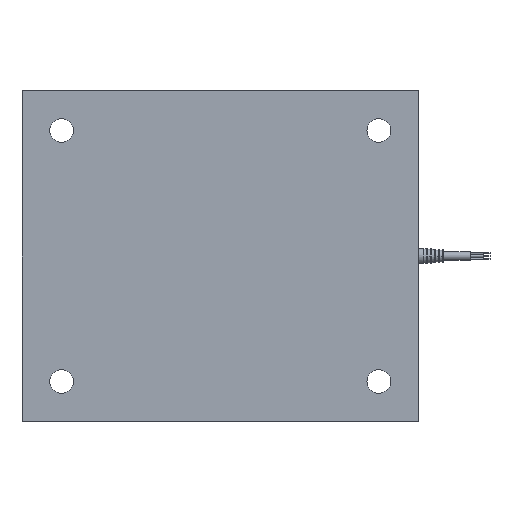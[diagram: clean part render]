
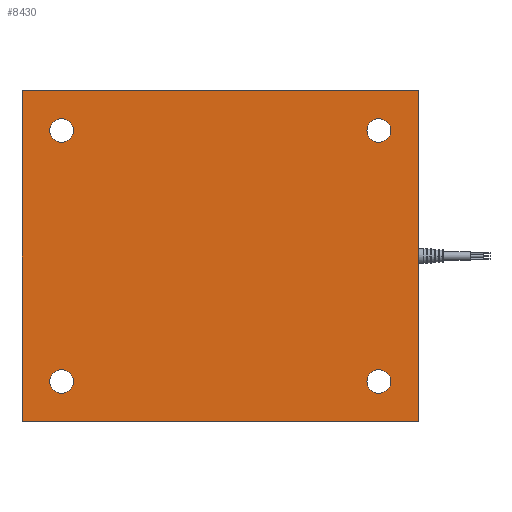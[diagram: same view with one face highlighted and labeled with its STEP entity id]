
A CAD part, front view. The second image highlights one B-rep face of the part: STEP entity #8430.
In plain terms, the highlighted planar face has unit normal (0, -1, 0).
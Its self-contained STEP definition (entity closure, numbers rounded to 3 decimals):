
#116 = VECTOR ( 'NONE', #326, 1000. ) ;
#137 = CIRCLE ( 'NONE', #1979, 9. ) ;
#177 = AXIS2_PLACEMENT_3D ( 'NONE', #9393, #5523, #832 ) ;
#229 = ORIENTED_EDGE ( 'NONE', *, *, #6847, .F. ) ;
#326 = DIRECTION ( 'NONE',  ( 0., 0., 1. ) ) ;
#353 = VERTEX_POINT ( 'NONE', #1999 ) ;
#703 = ORIENTED_EDGE ( 'NONE', *, *, #4865, .F. ) ;
#705 = DIRECTION ( 'NONE',  ( 0., 0., -1. ) ) ;
#832 = DIRECTION ( 'NONE',  ( 0., 0., 1. ) ) ;
#1026 = DIRECTION ( 'NONE',  ( 0., 0., 1. ) ) ;
#1034 = VERTEX_POINT ( 'NONE', #7795 ) ;
#1242 = FACE_BOUND ( 'NONE', #9019, .T. ) ;
#1250 = ORIENTED_EDGE ( 'NONE', *, *, #11129, .T. ) ;
#1761 = CARTESIAN_POINT ( 'NONE',  ( -120., 0., 104. ) ) ;
#1809 = CIRCLE ( 'NONE', #7284, 9. ) ;
#1979 = AXIS2_PLACEMENT_3D ( 'NONE', #8623, #12487, #7485 ) ;
#1986 = VERTEX_POINT ( 'NONE', #7447 ) ;
#1999 = CARTESIAN_POINT ( 'NONE',  ( 150., 0., 125. ) ) ;
#2360 = ORIENTED_EDGE ( 'NONE', *, *, #9410, .T. ) ;
#2840 = CIRCLE ( 'NONE', #4449, 9. ) ;
#2883 = CARTESIAN_POINT ( 'NONE',  ( 120., 0., -104. ) ) ;
#3141 = ORIENTED_EDGE ( 'NONE', *, *, #4127, .F. ) ;
#3194 = LINE ( 'NONE', #4081, #4846 ) ;
#3230 = CARTESIAN_POINT ( 'NONE',  ( -120., 0., 86. ) ) ;
#3317 = ORIENTED_EDGE ( 'NONE', *, *, #9626, .T. ) ;
#3402 = FACE_BOUND ( 'NONE', #3600, .T. ) ;
#3481 = EDGE_LOOP ( 'NONE', ( #1250, #8218 ) ) ;
#3524 = ORIENTED_EDGE ( 'NONE', *, *, #3999, .T. ) ;
#3552 = EDGE_CURVE ( 'NONE', #1034, #6792, #1809, .T. ) ;
#3600 = EDGE_LOOP ( 'NONE', ( #9226, #3524 ) ) ;
#3602 = ORIENTED_EDGE ( 'NONE', *, *, #4307, .T. ) ;
#3770 = CARTESIAN_POINT ( 'NONE',  ( -120., 0., 95. ) ) ;
#3812 = CARTESIAN_POINT ( 'NONE',  ( -150., 0., -125. ) ) ;
#3908 = CARTESIAN_POINT ( 'NONE',  ( 120., 0., -95. ) ) ;
#3999 = EDGE_CURVE ( 'NONE', #6792, #1034, #8051, .T. ) ;
#4015 = CARTESIAN_POINT ( 'NONE',  ( -120., 0., -95. ) ) ;
#4081 = CARTESIAN_POINT ( 'NONE',  ( -150., 0., -125. ) ) ;
#4127 = EDGE_CURVE ( 'NONE', #353, #11251, #9079, .T. ) ;
#4307 = EDGE_CURVE ( 'NONE', #1986, #9152, #137, .T. ) ;
#4357 = EDGE_LOOP ( 'NONE', ( #3317, #2360 ) ) ;
#4442 = CARTESIAN_POINT ( 'NONE',  ( 150., 0., 125. ) ) ;
#4449 = AXIS2_PLACEMENT_3D ( 'NONE', #4585, #6738, #5782 ) ;
#4585 = CARTESIAN_POINT ( 'NONE',  ( 120., 0., -95. ) ) ;
#4647 = CIRCLE ( 'NONE', #9313, 9. ) ;
#4846 = VECTOR ( 'NONE', #7109, 1000. ) ;
#4865 = EDGE_CURVE ( 'NONE', #9776, #8119, #9792, .T. ) ;
#4890 = CARTESIAN_POINT ( 'NONE',  ( 120., 0., 95. ) ) ;
#4983 = DIRECTION ( 'NONE',  ( 0., 0., 1. ) ) ;
#5032 = CARTESIAN_POINT ( 'NONE',  ( 150., 0., -125. ) ) ;
#5065 = DIRECTION ( 'NONE',  ( 1., 0., 0. ) ) ;
#5321 = CARTESIAN_POINT ( 'NONE',  ( 120., 0., 104. ) ) ;
#5396 = EDGE_LOOP ( 'NONE', ( #703, #229, #3141, #9287 ) ) ;
#5444 = ORIENTED_EDGE ( 'NONE', *, *, #7240, .T. ) ;
#5520 = VERTEX_POINT ( 'NONE', #3230 ) ;
#5523 = DIRECTION ( 'NONE',  ( 0., 1., 0. ) ) ;
#5527 = FACE_OUTER_BOUND ( 'NONE', #5396, .T. ) ;
#5621 = VECTOR ( 'NONE', #12184, 1000. ) ;
#5656 = CARTESIAN_POINT ( 'NONE',  ( 120., 0., -86. ) ) ;
#5664 = CIRCLE ( 'NONE', #7283, 9. ) ;
#5735 = DIRECTION ( 'NONE',  ( 0., 1., 0. ) ) ;
#5782 = DIRECTION ( 'NONE',  ( 0., 0., 1. ) ) ;
#6020 = DIRECTION ( 'NONE',  ( 0., 0., 1. ) ) ;
#6260 = LINE ( 'NONE', #9000, #8521 ) ;
#6499 = AXIS2_PLACEMENT_3D ( 'NONE', #9396, #10943, #705 ) ;
#6614 = CARTESIAN_POINT ( 'NONE',  ( -120., 0., -104. ) ) ;
#6673 = CIRCLE ( 'NONE', #177, 9. ) ;
#6738 = DIRECTION ( 'NONE',  ( 0., 1., 0. ) ) ;
#6760 = DIRECTION ( 'NONE',  ( 0., 1., 0. ) ) ;
#6792 = VERTEX_POINT ( 'NONE', #6614 ) ;
#6847 = EDGE_CURVE ( 'NONE', #11251, #9776, #3194, .T. ) ;
#7051 = DIRECTION ( 'NONE',  ( 0., 1., 0. ) ) ;
#7052 = CARTESIAN_POINT ( 'NONE',  ( -150., 0., 125. ) ) ;
#7061 = PLANE ( 'NONE',  #6499 ) ;
#7109 = DIRECTION ( 'NONE',  ( -1., 0., 0. ) ) ;
#7127 = FACE_BOUND ( 'NONE', #4357, .T. ) ;
#7196 = EDGE_CURVE ( 'NONE', #5520, #9350, #6673, .T. ) ;
#7240 = EDGE_CURVE ( 'NONE', #9152, #1986, #4647, .T. ) ;
#7283 = AXIS2_PLACEMENT_3D ( 'NONE', #3908, #6760, #4983 ) ;
#7284 = AXIS2_PLACEMENT_3D ( 'NONE', #4015, #7051, #8972 ) ;
#7447 = CARTESIAN_POINT ( 'NONE',  ( 120., 0., 86. ) ) ;
#7462 = CARTESIAN_POINT ( 'NONE',  ( -150., 0., 125. ) ) ;
#7485 = DIRECTION ( 'NONE',  ( 0., 0., 1. ) ) ;
#7795 = CARTESIAN_POINT ( 'NONE',  ( -120., 0., -86. ) ) ;
#7930 = CARTESIAN_POINT ( 'NONE',  ( -120., 0., -95. ) ) ;
#8051 = CIRCLE ( 'NONE', #11507, 9. ) ;
#8119 = VERTEX_POINT ( 'NONE', #7462 ) ;
#8218 = ORIENTED_EDGE ( 'NONE', *, *, #7196, .T. ) ;
#8430 = ADVANCED_FACE ( 'NONE', ( #3402, #7127, #1242, #8450, #5527 ), #7061, .T. ) ;
#8450 = FACE_BOUND ( 'NONE', #3481, .T. ) ;
#8521 = VECTOR ( 'NONE', #5065, 1000. ) ;
#8623 = CARTESIAN_POINT ( 'NONE',  ( 120., 0., 95. ) ) ;
#8632 = AXIS2_PLACEMENT_3D ( 'NONE', #3770, #5735, #11636 ) ;
#8972 = DIRECTION ( 'NONE',  ( 0., 0., 1. ) ) ;
#9000 = CARTESIAN_POINT ( 'NONE',  ( -150., 0., 125. ) ) ;
#9019 = EDGE_LOOP ( 'NONE', ( #5444, #3602 ) ) ;
#9079 = LINE ( 'NONE', #4442, #5621 ) ;
#9152 = VERTEX_POINT ( 'NONE', #5321 ) ;
#9226 = ORIENTED_EDGE ( 'NONE', *, *, #3552, .T. ) ;
#9287 = ORIENTED_EDGE ( 'NONE', *, *, #10413, .F. ) ;
#9313 = AXIS2_PLACEMENT_3D ( 'NONE', #4890, #9890, #6020 ) ;
#9350 = VERTEX_POINT ( 'NONE', #1761 ) ;
#9393 = CARTESIAN_POINT ( 'NONE',  ( -120., 0., 95. ) ) ;
#9396 = CARTESIAN_POINT ( 'NONE',  ( 0., 0., 0. ) ) ;
#9410 = EDGE_CURVE ( 'NONE', #9625, #9737, #5664, .T. ) ;
#9625 = VERTEX_POINT ( 'NONE', #2883 ) ;
#9626 = EDGE_CURVE ( 'NONE', #9737, #9625, #2840, .T. ) ;
#9737 = VERTEX_POINT ( 'NONE', #5656 ) ;
#9776 = VERTEX_POINT ( 'NONE', #3812 ) ;
#9792 = LINE ( 'NONE', #7052, #116 ) ;
#9890 = DIRECTION ( 'NONE',  ( 0., 1., 0. ) ) ;
#10413 = EDGE_CURVE ( 'NONE', #8119, #353, #6260, .T. ) ;
#10943 = DIRECTION ( 'NONE',  ( 0., -1., 0. ) ) ;
#11129 = EDGE_CURVE ( 'NONE', #9350, #5520, #12072, .T. ) ;
#11251 = VERTEX_POINT ( 'NONE', #5032 ) ;
#11507 = AXIS2_PLACEMENT_3D ( 'NONE', #7930, #11746, #1026 ) ;
#11636 = DIRECTION ( 'NONE',  ( 0., 0., 1. ) ) ;
#11746 = DIRECTION ( 'NONE',  ( 0., 1., 0. ) ) ;
#12072 = CIRCLE ( 'NONE', #8632, 9. ) ;
#12184 = DIRECTION ( 'NONE',  ( 0., 0., -1. ) ) ;
#12487 = DIRECTION ( 'NONE',  ( 0., 1., 0. ) ) ;
